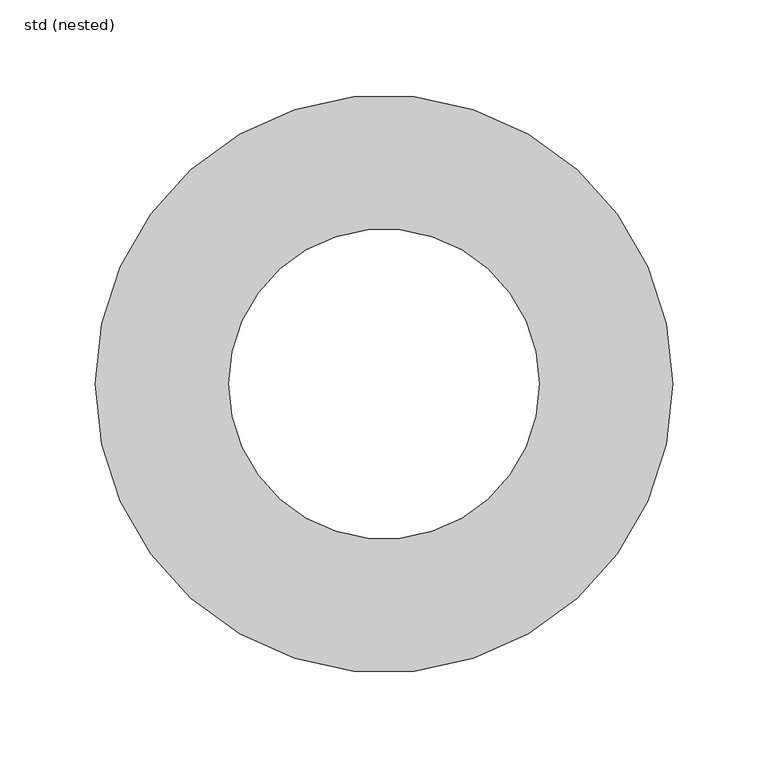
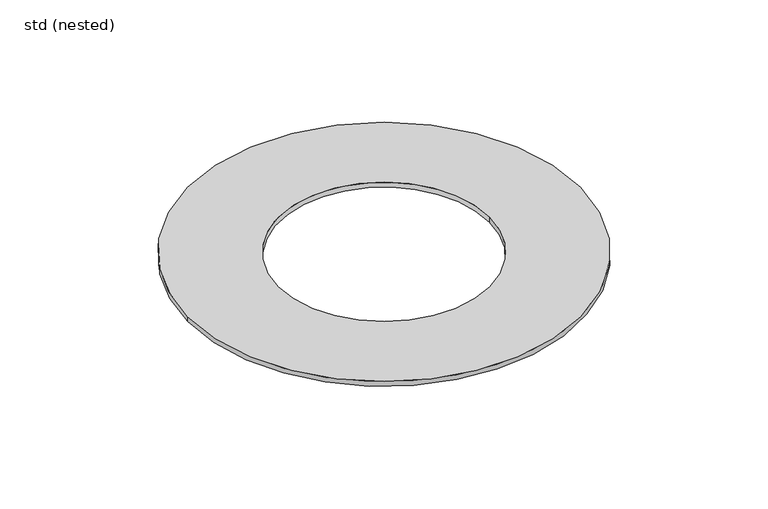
"""IFC4 building model written with IfcOpenShell, lengths in millimetres: sanitary terminal geometry, ZZZ_do not use_PF_GEN_flange seal_ACO : std (nested)."""

from ifc_helpers import new_model, si_unit, point, origin, origin_with_axes, origin_2d, place, context, project, spatial, circle_curve, trimmed, segment, composite_curve, outline, extrude, source, transform, mapped, element, save


def std_nested_0cbd71f9(model_context):
    return source(origin(), model_context, "Body", "SweptSolid", [
        extrude(outline(composite_curve([segment(trimmed(circle_curve(origin_2d(), 151.25), [point((-151.25, 0.0))], [point((151.25, 0.0))], False, "CARTESIAN"), True, "CONTINUOUS"), segment(trimmed(circle_curve(origin_2d(), 151.25), [point((151.25, 0.0))], [point((-151.25, 0.0))], False, "CARTESIAN"), True, "CONTINUOUS")], self_intersect=False), holes=[composite_curve([segment(trimmed(circle_curve(origin_2d(), 81.25), [point((-81.25, 0.0))], [point((81.25, 0.0))], True, "CARTESIAN"), True, "CONTINUOUS"), segment(trimmed(circle_curve(origin_2d(), 81.25), [point((81.25, 0.0))], [point((-81.25, 0.0))], True, "CARTESIAN"), True, "CONTINUOUS")], self_intersect=False)]), origin_with_axes(), (0.0, 0.0, 1.0), 4.0),
    ])


if __name__ == "__main__":
    model = new_model("IFC4")
    model_context = context("Model", 3, world=origin())
    ifc_project = project(units=[si_unit("LENGTHUNIT", "METRE", prefix="MILLI")], contexts=[model_context])
    site = spatial("IfcSite", under=ifc_project)
    building = spatial("IfcBuilding", under=site)
    placement = place(None, origin())
    std_nested_shape = std_nested_0cbd71f9(model_context)
    element("IfcSanitaryTerminal", 1, ObjectType="ZZZ_do not use_PF_GEN_flange seal_ACO : std (nested)", at=placement, inside=building, context=model_context, shape_type="MappedRepresentation", body=[
        mapped(std_nested_shape, transform((0.0, 0.0, 0.0), x_axis=(1.0, 0.0, 0.0), y_axis=(0.0, 1.0, 0.0), z_axis=(0.0, 0.0, 1.0))),
    ])
    save(model, "model.ifc")
